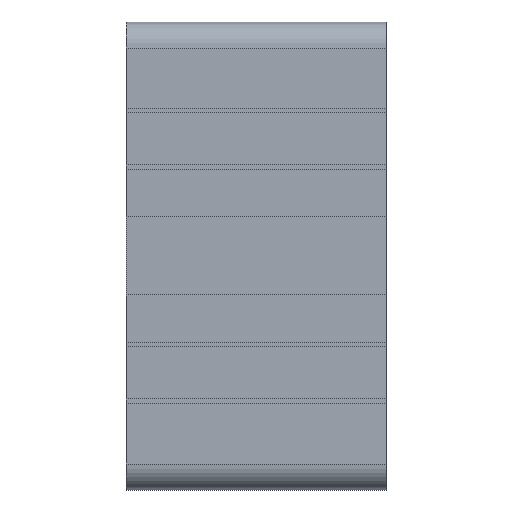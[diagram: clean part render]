
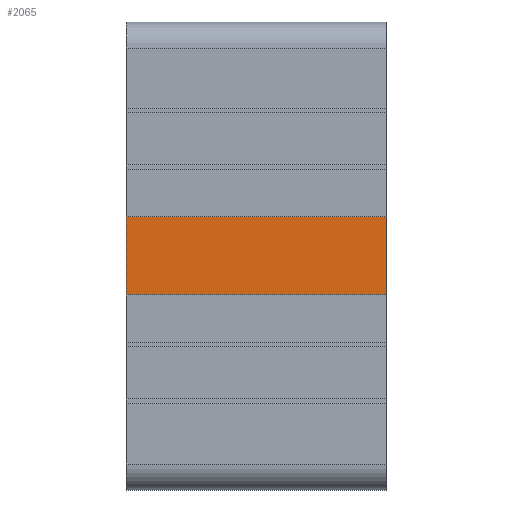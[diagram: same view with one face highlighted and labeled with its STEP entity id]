
A CAD part, front view. The second image highlights one B-rep face of the part: STEP entity #2065.
In plain terms, the highlighted planar face has unit normal (0, -1, 0).
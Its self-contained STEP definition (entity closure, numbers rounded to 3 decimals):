
#1819=EDGE_CURVE('',#3593,#2257,#5360,.T.);
#2065=ADVANCED_FACE('',(#5620),#5621,.T.);
#2257=VERTEX_POINT('',#5831);
#2893=VERTEX_POINT('',#6514);
#3593=VERTEX_POINT('',#7288);
#3647=EDGE_CURVE('',#5185,#2257,#7345,.T.);
#3725=EDGE_CURVE('',#5185,#2893,#7428,.T.);
#4877=EDGE_CURVE('',#2893,#3593,#8677,.T.);
#5185=VERTEX_POINT('',#9007);
#5360=LINE('',#9205,#9206);
#5620=FACE_OUTER_BOUND('',#9588,.T.);
#5621=PLANE('',#9589);
#5831=CARTESIAN_POINT('',(50.0,-89.0,7.5));
#6514=CARTESIAN_POINT('',(0.0,-89.0,-7.5));
#7288=CARTESIAN_POINT('',(50.0,-89.0,-7.5));
#7345=LINE('',#12054,#12055);
#7428=LINE('',#12186,#12187);
#8677=LINE('',#14004,#14005);
#9007=CARTESIAN_POINT('',(0.0,-89.0,7.5));
#9205=CARTESIAN_POINT('',(50.0,-89.0,7.5));
#9206=VECTOR('',#15010,1.0);
#9588=EDGE_LOOP('',(#15189,#15190,#15191,#15192));
#9589=AXIS2_PLACEMENT_3D('',#15193,#15194,#15195);
#12054=CARTESIAN_POINT('',(0.0,-89.0,7.5));
#12055=VECTOR('',#16968,1.0);
#12186=CARTESIAN_POINT('',(0.0,-89.0,7.5));
#12187=VECTOR('',#17035,1.0);
#14004=CARTESIAN_POINT('',(0.0,-89.0,-7.5));
#14005=VECTOR('',#18118,1.0);
#15010=DIRECTION('',(0.0,0.0,1.0));
#15189=ORIENTED_EDGE('',*,*,#1819,.T.);
#15190=ORIENTED_EDGE('',*,*,#3647,.F.);
#15191=ORIENTED_EDGE('',*,*,#3725,.T.);
#15192=ORIENTED_EDGE('',*,*,#4877,.T.);
#15193=CARTESIAN_POINT('',(0.0,-89.0,-7.2));
#15194=DIRECTION('',(0.0,-1.0,0.0));
#15195=DIRECTION('',(0.0,0.0,-1.0));
#16968=DIRECTION('',(1.0,0.0,0.0));
#17035=DIRECTION('',(0.0,0.0,-1.0));
#18118=DIRECTION('',(1.0,0.0,0.0));
